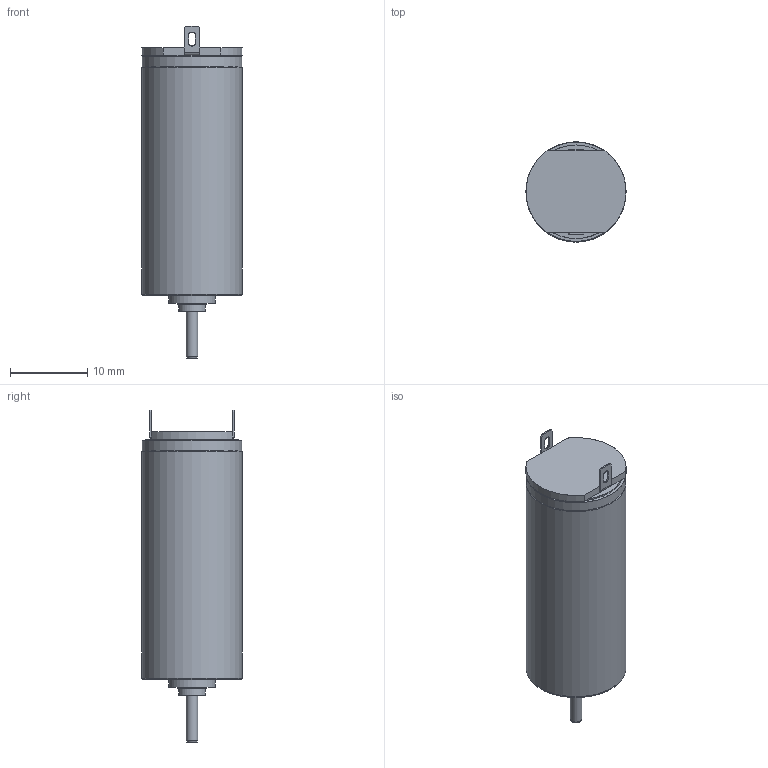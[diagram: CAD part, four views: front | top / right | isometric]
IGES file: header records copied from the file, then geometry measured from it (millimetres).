
Global section: file name: T:\users\haegele\__Huellen\1331TxxxSR_K.igs; native system: NX V3.0; preprocessor: UGS NX IGES V3.0; date: 20080103.105439; units: millimetre
Bounding box: 13 x 13 x 43.1 mm (x, y, z)
Surface area: 1697.9 mm2 (no closed solid volume)
Topology: 0 solids, 0 shells, 70 faces, 826 edges, 812 vertices
Faces by surface type: extrusion 40, revolution 30
